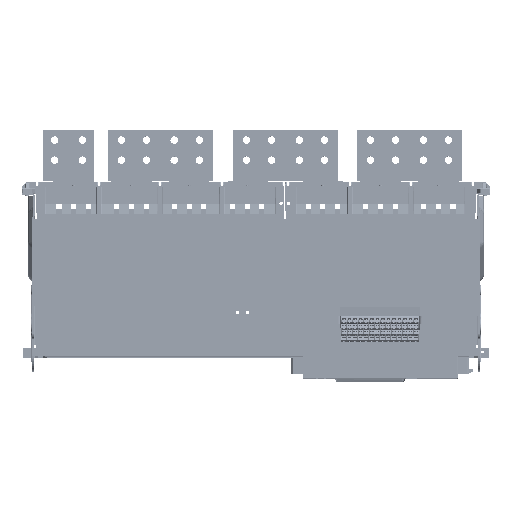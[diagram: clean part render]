
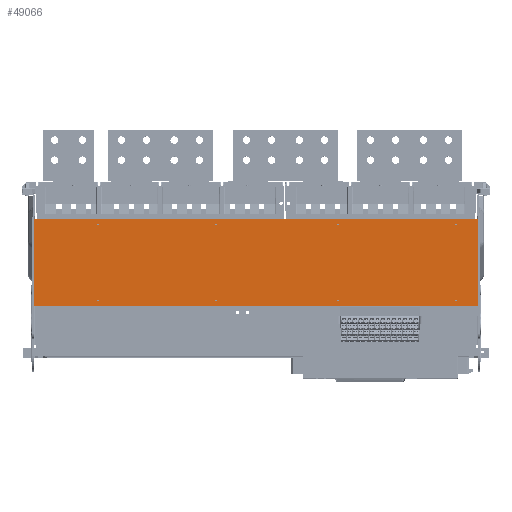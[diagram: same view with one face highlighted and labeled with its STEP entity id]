
A CAD part, top view. The second image highlights one B-rep face of the part: STEP entity #49066.
In plain terms, the highlighted planar face has unit normal (0, 0, 1) as drawn and (0, -1, 0) by its records, which use the part's own axes.
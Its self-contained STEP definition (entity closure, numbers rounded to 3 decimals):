
#45683=DIRECTION('',(0.,0.,1.));
#45684=VECTOR('',#45683,173.);
#45685=CARTESIAN_POINT('',(-656.5,0.,-86.5));
#45686=LINE('',#45685,#45684);
#45690=DIRECTION('',(1.,0.,0.));
#45691=VECTOR('',#45690,884.);
#45692=CARTESIAN_POINT('',(-656.5,0.,86.5));
#45693=LINE('',#45692,#45691);
#45697=DIRECTION('',(0.,0.,-1.));
#45698=VECTOR('',#45697,173.);
#45699=CARTESIAN_POINT('',(227.5,0.,86.5));
#45700=LINE('',#45699,#45698);
#45704=DIRECTION('',(-1.,0.,0.));
#45705=VECTOR('',#45704,884.);
#45706=CARTESIAN_POINT('',(227.5,0.,-86.5));
#45707=LINE('',#45706,#45705);
#45711=CARTESIAN_POINT('',(-529.5,0.,75.5));
#45712=DIRECTION('',(0.,-1.,0.));
#45713=DIRECTION('',(1.,0.,0.));
#45714=AXIS2_PLACEMENT_3D('',#45711,#45712,#45713);
#45719=CARTESIAN_POINT('',(-529.5,0.,75.5));
#45720=DIRECTION('',(0.,-1.,0.));
#45721=DIRECTION('',(-1.,0.,0.));
#45722=AXIS2_PLACEMENT_3D('',#45719,#45720,#45721);
#45727=CARTESIAN_POINT('',(182.5,0.,75.5));
#45728=DIRECTION('',(0.,-1.,0.));
#45729=DIRECTION('',(1.,0.,0.));
#45730=AXIS2_PLACEMENT_3D('',#45727,#45728,#45729);
#45735=CARTESIAN_POINT('',(182.5,0.,75.5));
#45736=DIRECTION('',(0.,-1.,0.));
#45737=DIRECTION('',(-1.,0.,0.));
#45738=AXIS2_PLACEMENT_3D('',#45735,#45736,#45737);
#45743=CARTESIAN_POINT('',(182.5,0.,-75.5));
#45744=DIRECTION('',(0.,-1.,0.));
#45745=DIRECTION('',(1.,0.,0.));
#45746=AXIS2_PLACEMENT_3D('',#45743,#45744,#45745);
#45751=CARTESIAN_POINT('',(182.5,0.,-75.5));
#45752=DIRECTION('',(0.,-1.,0.));
#45753=DIRECTION('',(-1.,0.,0.));
#45754=AXIS2_PLACEMENT_3D('',#45751,#45752,#45753);
#45759=CARTESIAN_POINT('',(-529.5,0.,-75.5));
#45760=DIRECTION('',(0.,-1.,0.));
#45761=DIRECTION('',(1.,0.,0.));
#45762=AXIS2_PLACEMENT_3D('',#45759,#45760,#45761);
#45767=CARTESIAN_POINT('',(-529.5,0.,-75.5));
#45768=DIRECTION('',(0.,-1.,0.));
#45769=DIRECTION('',(-1.,0.,0.));
#45770=AXIS2_PLACEMENT_3D('',#45767,#45768,#45769);
#45775=CARTESIAN_POINT('',(-52.5,0.,75.5));
#45776=DIRECTION('',(0.,-1.,0.));
#45777=DIRECTION('',(1.,0.,0.));
#45778=AXIS2_PLACEMENT_3D('',#45775,#45776,#45777);
#45783=CARTESIAN_POINT('',(-52.5,0.,75.5));
#45784=DIRECTION('',(0.,-1.,0.));
#45785=DIRECTION('',(-1.,0.,0.));
#45786=AXIS2_PLACEMENT_3D('',#45783,#45784,#45785);
#45791=CARTESIAN_POINT('',(-52.5,0.,-75.5));
#45792=DIRECTION('',(0.,-1.,0.));
#45793=DIRECTION('',(1.,0.,0.));
#45794=AXIS2_PLACEMENT_3D('',#45791,#45792,#45793);
#45799=CARTESIAN_POINT('',(-52.5,0.,-75.5));
#45800=DIRECTION('',(0.,-1.,0.));
#45801=DIRECTION('',(-1.,0.,0.));
#45802=AXIS2_PLACEMENT_3D('',#45799,#45800,#45801);
#45807=CARTESIAN_POINT('',(-294.5,0.,75.5));
#45808=DIRECTION('',(0.,-1.,0.));
#45809=DIRECTION('',(1.,0.,0.));
#45810=AXIS2_PLACEMENT_3D('',#45807,#45808,#45809);
#45815=CARTESIAN_POINT('',(-294.5,0.,75.5));
#45816=DIRECTION('',(0.,-1.,0.));
#45817=DIRECTION('',(-1.,0.,0.));
#45818=AXIS2_PLACEMENT_3D('',#45815,#45816,#45817);
#45823=CARTESIAN_POINT('',(-294.5,0.,-75.5));
#45824=DIRECTION('',(0.,-1.,0.));
#45825=DIRECTION('',(1.,0.,0.));
#45826=AXIS2_PLACEMENT_3D('',#45823,#45824,#45825);
#45831=CARTESIAN_POINT('',(-294.5,0.,-75.5));
#45832=DIRECTION('',(0.,-1.,0.));
#45833=DIRECTION('',(-1.,0.,0.));
#45834=AXIS2_PLACEMENT_3D('',#45831,#45832,#45833);
#48483=CARTESIAN_POINT('',(-656.5,0.,-86.5));
#48484=CARTESIAN_POINT('',(-656.5,0.,86.5));
#48485=VERTEX_POINT('',#48483);
#48486=VERTEX_POINT('',#48484);
#48487=CARTESIAN_POINT('',(227.5,0.,86.5));
#48488=VERTEX_POINT('',#48487);
#48489=CARTESIAN_POINT('',(227.5,0.,-86.5));
#48490=VERTEX_POINT('',#48489);
#48683=CARTESIAN_POINT('',(-527.75,0.,75.5));
#48684=CARTESIAN_POINT('',(-531.25,0.,75.5));
#48685=VERTEX_POINT('',#48683);
#48686=VERTEX_POINT('',#48684);
#48687=CARTESIAN_POINT('',(184.25,0.,75.5));
#48688=CARTESIAN_POINT('',(180.75,0.,75.5));
#48689=VERTEX_POINT('',#48687);
#48690=VERTEX_POINT('',#48688);
#48691=CARTESIAN_POINT('',(184.25,0.,-75.5));
#48692=CARTESIAN_POINT('',(180.75,0.,-75.5));
#48693=VERTEX_POINT('',#48691);
#48694=VERTEX_POINT('',#48692);
#48695=CARTESIAN_POINT('',(-527.75,0.,-75.5));
#48696=CARTESIAN_POINT('',(-531.25,0.,-75.5));
#48697=VERTEX_POINT('',#48695);
#48698=VERTEX_POINT('',#48696);
#48955=CARTESIAN_POINT('',(-50.75,0.,75.5));
#48956=CARTESIAN_POINT('',(-54.25,0.,75.5));
#48957=VERTEX_POINT('',#48955);
#48958=VERTEX_POINT('',#48956);
#48959=CARTESIAN_POINT('',(-50.75,0.,-75.5));
#48960=CARTESIAN_POINT('',(-54.25,0.,-75.5));
#48961=VERTEX_POINT('',#48959);
#48962=VERTEX_POINT('',#48960);
#48987=CARTESIAN_POINT('',(-292.75,0.,75.5));
#48988=CARTESIAN_POINT('',(-296.25,0.,75.5));
#48989=VERTEX_POINT('',#48987);
#48990=VERTEX_POINT('',#48988);
#48991=CARTESIAN_POINT('',(-292.75,0.,-75.5));
#48992=CARTESIAN_POINT('',(-296.25,0.,-75.5));
#48993=VERTEX_POINT('',#48991);
#48994=VERTEX_POINT('',#48992);
#49003=CARTESIAN_POINT('',(0.,0.,0.));
#49004=DIRECTION('',(0.,1.,0.));
#49005=DIRECTION('',(1.,0.,0.));
#49006=AXIS2_PLACEMENT_3D('',#49003,#49004,#49005);
#49007=PLANE('',#49006);
#49009=ORIENTED_EDGE('',*,*,#49008,.T.);
#49011=ORIENTED_EDGE('',*,*,#49010,.T.);
#49013=ORIENTED_EDGE('',*,*,#49012,.T.);
#49015=ORIENTED_EDGE('',*,*,#49014,.T.);
#49016=EDGE_LOOP('',(#49009,#49011,#49013,#49015));
#49017=FACE_OUTER_BOUND('',#49016,.F.);
#49019=ORIENTED_EDGE('',*,*,#49018,.T.);
#49021=ORIENTED_EDGE('',*,*,#49020,.T.);
#49022=EDGE_LOOP('',(#49019,#49021));
#49023=FACE_BOUND('',#49022,.F.);
#49025=ORIENTED_EDGE('',*,*,#49024,.T.);
#49027=ORIENTED_EDGE('',*,*,#49026,.T.);
#49028=EDGE_LOOP('',(#49025,#49027));
#49029=FACE_BOUND('',#49028,.F.);
#49031=ORIENTED_EDGE('',*,*,#49030,.T.);
#49033=ORIENTED_EDGE('',*,*,#49032,.T.);
#49034=EDGE_LOOP('',(#49031,#49033));
#49035=FACE_BOUND('',#49034,.F.);
#49037=ORIENTED_EDGE('',*,*,#49036,.T.);
#49039=ORIENTED_EDGE('',*,*,#49038,.T.);
#49040=EDGE_LOOP('',(#49037,#49039));
#49041=FACE_BOUND('',#49040,.F.);
#49043=ORIENTED_EDGE('',*,*,#49042,.T.);
#49045=ORIENTED_EDGE('',*,*,#49044,.T.);
#49046=EDGE_LOOP('',(#49043,#49045));
#49047=FACE_BOUND('',#49046,.F.);
#49049=ORIENTED_EDGE('',*,*,#49048,.T.);
#49051=ORIENTED_EDGE('',*,*,#49050,.T.);
#49052=EDGE_LOOP('',(#49049,#49051));
#49053=FACE_BOUND('',#49052,.F.);
#49055=ORIENTED_EDGE('',*,*,#49054,.T.);
#49057=ORIENTED_EDGE('',*,*,#49056,.T.);
#49058=EDGE_LOOP('',(#49055,#49057));
#49059=FACE_BOUND('',#49058,.F.);
#49061=ORIENTED_EDGE('',*,*,#49060,.T.);
#49063=ORIENTED_EDGE('',*,*,#49062,.T.);
#49064=EDGE_LOOP('',(#49061,#49063));
#49065=FACE_BOUND('',#49064,.F.);
#49066=ADVANCED_FACE('',(#49017,#49023,#49029,#49035,#49041,#49047,#49053,
#49059,#49065),#49007,.F.);
#45715=CIRCLE('',#45714,1.75);
#45723=CIRCLE('',#45722,1.75);
#45731=CIRCLE('',#45730,1.75);
#45739=CIRCLE('',#45738,1.75);
#45747=CIRCLE('',#45746,1.75);
#45755=CIRCLE('',#45754,1.75);
#45763=CIRCLE('',#45762,1.75);
#45771=CIRCLE('',#45770,1.75);
#45779=CIRCLE('',#45778,1.75);
#45787=CIRCLE('',#45786,1.75);
#45795=CIRCLE('',#45794,1.75);
#45803=CIRCLE('',#45802,1.75);
#45811=CIRCLE('',#45810,1.75);
#45819=CIRCLE('',#45818,1.75);
#45827=CIRCLE('',#45826,1.75);
#45835=CIRCLE('',#45834,1.75);
#49008=EDGE_CURVE('',#48485,#48486,#45686,.T.);
#49010=EDGE_CURVE('',#48486,#48488,#45693,.T.);
#49012=EDGE_CURVE('',#48488,#48490,#45700,.T.);
#49014=EDGE_CURVE('',#48490,#48485,#45707,.T.);
#49018=EDGE_CURVE('',#48685,#48686,#45715,.T.);
#49020=EDGE_CURVE('',#48686,#48685,#45723,.T.);
#49024=EDGE_CURVE('',#48689,#48690,#45731,.T.);
#49026=EDGE_CURVE('',#48690,#48689,#45739,.T.);
#49030=EDGE_CURVE('',#48693,#48694,#45747,.T.);
#49032=EDGE_CURVE('',#48694,#48693,#45755,.T.);
#49036=EDGE_CURVE('',#48697,#48698,#45763,.T.);
#49038=EDGE_CURVE('',#48698,#48697,#45771,.T.);
#49042=EDGE_CURVE('',#48957,#48958,#45779,.T.);
#49044=EDGE_CURVE('',#48958,#48957,#45787,.T.);
#49048=EDGE_CURVE('',#48961,#48962,#45795,.T.);
#49050=EDGE_CURVE('',#48962,#48961,#45803,.T.);
#49054=EDGE_CURVE('',#48989,#48990,#45811,.T.);
#49056=EDGE_CURVE('',#48990,#48989,#45819,.T.);
#49060=EDGE_CURVE('',#48993,#48994,#45827,.T.);
#49062=EDGE_CURVE('',#48994,#48993,#45835,.T.);
